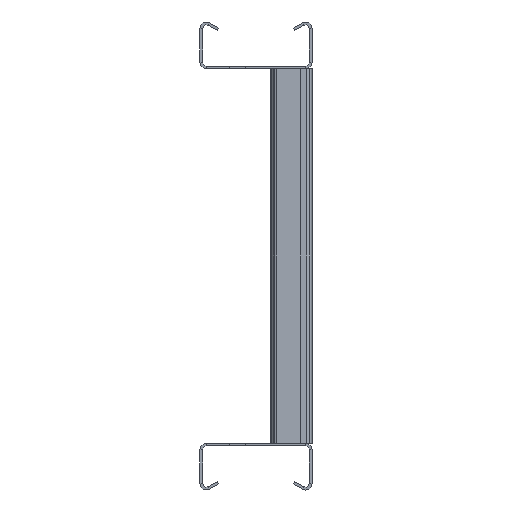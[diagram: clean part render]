
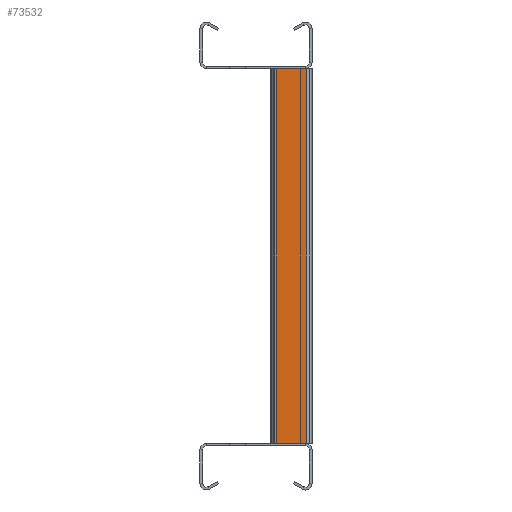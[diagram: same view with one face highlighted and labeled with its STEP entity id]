
A CAD part, left-side view. The second image highlights one B-rep face of the part: STEP entity #73532.
In plain terms, the highlighted planar face has unit normal (-1, 0, 0).
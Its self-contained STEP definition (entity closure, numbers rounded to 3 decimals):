
#4091=LINE('',#110492,#11795);
#4092=LINE('',#110494,#11796);
#4093=LINE('',#110496,#11797);
#4094=LINE('',#110497,#11798);
#11795=VECTOR('',#88670,10.);
#11796=VECTOR('',#88671,10.);
#11797=VECTOR('',#88672,10.);
#11798=VECTOR('',#88673,10.);
#17415=PLANE('',#77650);
#21004=FACE_OUTER_BOUND('',#25472,.T.);
#25472=EDGE_LOOP('',(#55837,#55838,#55839,#55840));
#33047=VERTEX_POINT('',#110487);
#33048=VERTEX_POINT('',#110491);
#33049=VERTEX_POINT('',#110493);
#33050=VERTEX_POINT('',#110495);
#41262=EDGE_CURVE('',#33048,#33047,#4091,.T.);
#41263=EDGE_CURVE('',#33049,#33048,#4092,.T.);
#41264=EDGE_CURVE('',#33049,#33050,#4093,.T.);
#41265=EDGE_CURVE('',#33047,#33050,#4094,.T.);
#55837=ORIENTED_EDGE('',*,*,#41262,.F.);
#55838=ORIENTED_EDGE('',*,*,#41263,.F.);
#55839=ORIENTED_EDGE('',*,*,#41264,.T.);
#55840=ORIENTED_EDGE('',*,*,#41265,.F.);
#73532=ADVANCED_FACE('',(#21004),#17415,.T.);
#77650=AXIS2_PLACEMENT_3D('',#110490,#88668,#88669);
#88668=DIRECTION('center_axis',(-1.,0.,0.));
#88669=DIRECTION('ref_axis',(0.,0.,
-1.));
#88670=DIRECTION('',(0.,0.,1.));
#88671=DIRECTION('',(0.,1.,0.));
#88672=DIRECTION('',(0.,0.,1.));
#88673=DIRECTION('',(0.,-1.,0.));
#110487=CARTESIAN_POINT('',(-2894.75,-11.,100.));
#110490=CARTESIAN_POINT('Origin',(-2894.75,9.143,0.));
#110491=CARTESIAN_POINT('',(-2894.75,-11.,-100.));
#110492=CARTESIAN_POINT('',(-2894.75,-11.,0.));
#110493=CARTESIAN_POINT('',(-2894.75,-27.,-100.));
#110494=CARTESIAN_POINT('',(-2894.75,56.822,-100.));
#110495=CARTESIAN_POINT('',(-2894.75,-27.,100.));
#110496=CARTESIAN_POINT('',(-2894.75,-27.,0.));
#110497=CARTESIAN_POINT('',(-2894.75,-41.536,100.));
